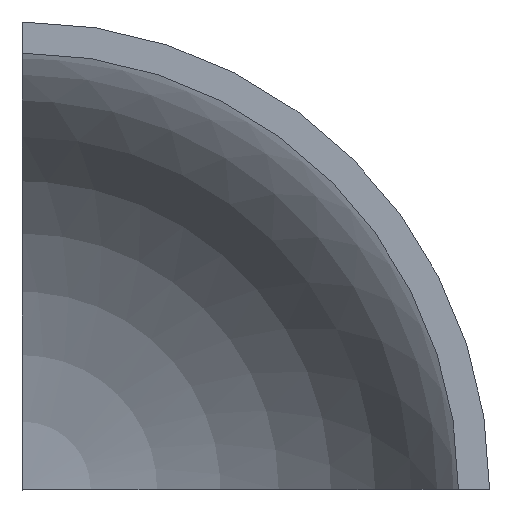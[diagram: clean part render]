
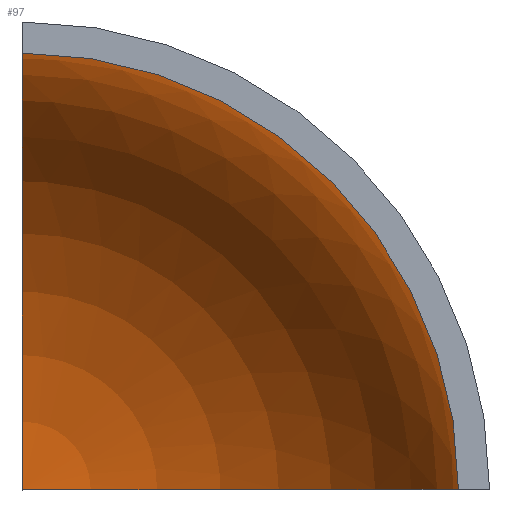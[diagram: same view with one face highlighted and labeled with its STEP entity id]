
A CAD part, top view. The second image highlights one B-rep face of the part: STEP entity #97.
In plain terms, the highlighted spherical face has radius 42 mm.
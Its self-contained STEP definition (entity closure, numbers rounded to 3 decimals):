
#14=CARTESIAN_POINT('',(0.,0.,0.));
#15=DIRECTION('',(0.,-1.,0.));
#16=DIRECTION('',(0.,0.,-1.));
#17=AXIS2_PLACEMENT_3D('',#14,#15,#16);
#19=CARTESIAN_POINT('',(0.,0.,0.));
#20=DIRECTION('',(0.,0.,1.));
#21=DIRECTION('',(1.,0.,0.));
#22=AXIS2_PLACEMENT_3D('',#19,#20,#21);
#28=CARTESIAN_POINT('',(0.,0.,0.));
#29=DIRECTION('',(1.,0.,0.));
#30=DIRECTION('',(0.,0.,-1.));
#31=AXIS2_PLACEMENT_3D('',#28,#29,#30);
#43=CARTESIAN_POINT('',(42.,0.,0.));
#45=VERTEX_POINT('',#43);
#49=CARTESIAN_POINT('',(0.,0.,-42.));
#50=VERTEX_POINT('',#49);
#51=CARTESIAN_POINT('',(0.,42.,0.));
#53=VERTEX_POINT('',#51);
#86=CARTESIAN_POINT('',(0.,0.,0.));
#87=DIRECTION('',(0.,0.,1.));
#88=DIRECTION('',(-1.,0.,0.));
#89=AXIS2_PLACEMENT_3D('',#86,#87,#88);
#90=SPHERICAL_SURFACE('',#89,42.);
#91=ORIENTED_EDGE('',*,*,#66,.F.);
#93=ORIENTED_EDGE('',*,*,#92,.T.);
#94=ORIENTED_EDGE('',*,*,#77,.F.);
#95=EDGE_LOOP('',(#91,#93,#94));
#96=FACE_OUTER_BOUND('',#95,.F.);
#97=ADVANCED_FACE('',(#96),#90,.F.);
#18=CIRCLE('',#17,42.);
#23=CIRCLE('',#22,42.);
#32=CIRCLE('',#31,42.);
#66=EDGE_CURVE('',#50,#45,#18,.T.);
#77=EDGE_CURVE('',#45,#53,#23,.T.);
#92=EDGE_CURVE('',#50,#53,#32,.T.);
